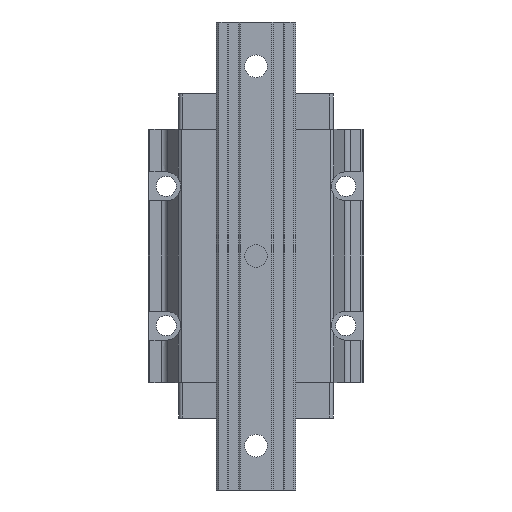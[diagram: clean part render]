
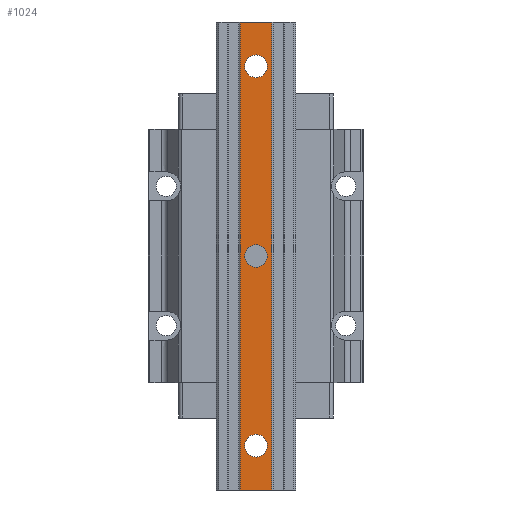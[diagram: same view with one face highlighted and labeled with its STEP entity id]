
A CAD part, front view. The second image highlights one B-rep face of the part: STEP entity #1024.
In plain terms, the highlighted planar face has unit normal (0, -1, 0).
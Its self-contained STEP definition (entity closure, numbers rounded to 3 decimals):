
#226 = ORIENTED_EDGE ( 'NONE', *, *, #3816, .F. ) ;
#241 = EDGE_CURVE ( 'NONE', #7084, #3475, #8092, .T. ) ;
#385 = CARTESIAN_POINT ( 'NONE',  ( 0., -53., 150. ) ) ;
#584 = VERTEX_POINT ( 'NONE', #2667 ) ;
#640 = EDGE_CURVE ( 'NONE', #584, #4975, #9044, .T. ) ;
#821 = CIRCLE ( 'NONE', #2776, 9. ) ;
#847 = DIRECTION ( 'NONE',  ( 0., 0., 1. ) ) ;
#978 = VECTOR ( 'NONE', #4752, 1000. ) ;
#1024 = ADVANCED_FACE ( 'NONE', ( #8942, #6776, #8246, #8199 ), #3282, .T. ) ;
#1065 = CIRCLE ( 'NONE', #3141, 9. ) ;
#1224 = EDGE_LOOP ( 'NONE', ( #4477, #2288 ) ) ;
#1339 = EDGE_LOOP ( 'NONE', ( #4423, #3932 ) ) ;
#1455 = EDGE_CURVE ( 'NONE', #3540, #2052, #3805, .T. ) ;
#1687 = AXIS2_PLACEMENT_3D ( 'NONE', #4756, #4661, #8329 ) ;
#1771 = ORIENTED_EDGE ( 'NONE', *, *, #3744, .T. ) ;
#1779 = EDGE_LOOP ( 'NONE', ( #5976, #1771 ) ) ;
#1784 = DIRECTION ( 'NONE',  ( 0., 1., 0. ) ) ;
#1937 = CARTESIAN_POINT ( 'NONE',  ( 0., -53., 141. ) ) ;
#1968 = DIRECTION ( 'NONE',  ( 0., 0., 1. ) ) ;
#2041 = LINE ( 'NONE', #7802, #978 ) ;
#2052 = VERTEX_POINT ( 'NONE', #1937 ) ;
#2146 = AXIS2_PLACEMENT_3D ( 'NONE', #8483, #6262, #1968 ) ;
#2288 = ORIENTED_EDGE ( 'NONE', *, *, #8921, .T. ) ;
#2563 = EDGE_LOOP ( 'NONE', ( #5948, #226, #8173, #2639 ) ) ;
#2583 = AXIS2_PLACEMENT_3D ( 'NONE', #4626, #8852, #3927 ) ;
#2618 = CARTESIAN_POINT ( 'NONE',  ( 0., -53., 159. ) ) ;
#2639 = ORIENTED_EDGE ( 'NONE', *, *, #8225, .T. ) ;
#2667 = CARTESIAN_POINT ( 'NONE',  ( 0., -53., -141. ) ) ;
#2673 = CARTESIAN_POINT ( 'NONE',  ( 0., -53., -150. ) ) ;
#2689 = CARTESIAN_POINT ( 'NONE',  ( 0., -53., -9. ) ) ;
#2776 = AXIS2_PLACEMENT_3D ( 'NONE', #7913, #5047, #847 ) ;
#2974 = DIRECTION ( 'NONE',  ( 0., 0., -1. ) ) ;
#3115 = LINE ( 'NONE', #3857, #3229 ) ;
#3141 = AXIS2_PLACEMENT_3D ( 'NONE', #385, #1784, #8298 ) ;
#3229 = VECTOR ( 'NONE', #2974, 1000. ) ;
#3282 = PLANE ( 'NONE',  #2583 ) ;
#3475 = VERTEX_POINT ( 'NONE', #4439 ) ;
#3540 = VERTEX_POINT ( 'NONE', #2618 ) ;
#3744 = EDGE_CURVE ( 'NONE', #4975, #584, #6233, .T. ) ;
#3763 = CARTESIAN_POINT ( 'NONE',  ( -12.5, -53., -185. ) ) ;
#3805 = CIRCLE ( 'NONE', #4998, 9. ) ;
#3816 = EDGE_CURVE ( 'NONE', #3945, #3475, #2041, .T. ) ;
#3857 = CARTESIAN_POINT ( 'NONE',  ( -12.5, -53., -185. ) ) ;
#3927 = DIRECTION ( 'NONE',  ( 0., 0., -1. ) ) ;
#3932 = ORIENTED_EDGE ( 'NONE', *, *, #5910, .T. ) ;
#3945 = VERTEX_POINT ( 'NONE', #4839 ) ;
#3947 = AXIS2_PLACEMENT_3D ( 'NONE', #2673, #6345, #4813 ) ;
#4307 = DIRECTION ( 'NONE',  ( 1., 0., 0. ) ) ;
#4423 = ORIENTED_EDGE ( 'NONE', *, *, #6029, .T. ) ;
#4439 = CARTESIAN_POINT ( 'NONE',  ( 12.5, -53., 185. ) ) ;
#4477 = ORIENTED_EDGE ( 'NONE', *, *, #1455, .T. ) ;
#4626 = CARTESIAN_POINT ( 'NONE',  ( -12.5, -53., -185. ) ) ;
#4661 = DIRECTION ( 'NONE',  ( 0., 1., 0. ) ) ;
#4675 = CIRCLE ( 'NONE', #2146, 9. ) ;
#4752 = DIRECTION ( 'NONE',  ( 1., 0., 0. ) ) ;
#4756 = CARTESIAN_POINT ( 'NONE',  ( 0., -53., -150. ) ) ;
#4813 = DIRECTION ( 'NONE',  ( 0., 0., 1. ) ) ;
#4839 = CARTESIAN_POINT ( 'NONE',  ( -12.5, -53., 185. ) ) ;
#4968 = LINE ( 'NONE', #5012, #6006 ) ;
#4975 = VERTEX_POINT ( 'NONE', #7699 ) ;
#4998 = AXIS2_PLACEMENT_3D ( 'NONE', #9190, #5468, #8372 ) ;
#5012 = CARTESIAN_POINT ( 'NONE',  ( 0., -53., -185. ) ) ;
#5047 = DIRECTION ( 'NONE',  ( 0., 1., 0. ) ) ;
#5468 = DIRECTION ( 'NONE',  ( 0., 1., 0. ) ) ;
#5658 = VERTEX_POINT ( 'NONE', #3763 ) ;
#5910 = EDGE_CURVE ( 'NONE', #7079, #7870, #4675, .T. ) ;
#5948 = ORIENTED_EDGE ( 'NONE', *, *, #241, .T. ) ;
#5976 = ORIENTED_EDGE ( 'NONE', *, *, #640, .T. ) ;
#6006 = VECTOR ( 'NONE', #4307, 1000. ) ;
#6029 = EDGE_CURVE ( 'NONE', #7870, #7079, #821, .T. ) ;
#6053 = VECTOR ( 'NONE', #7324, 1000. ) ;
#6233 = CIRCLE ( 'NONE', #3947, 9. ) ;
#6262 = DIRECTION ( 'NONE',  ( 0., 1., 0. ) ) ;
#6274 = CARTESIAN_POINT ( 'NONE',  ( 12.5, -53., -185. ) ) ;
#6345 = DIRECTION ( 'NONE',  ( 0., 1., 0. ) ) ;
#6620 = CARTESIAN_POINT ( 'NONE',  ( 12.5, -53., -185. ) ) ;
#6776 = FACE_BOUND ( 'NONE', #1224, .T. ) ;
#6869 = EDGE_CURVE ( 'NONE', #3945, #5658, #3115, .T. ) ;
#7079 = VERTEX_POINT ( 'NONE', #2689 ) ;
#7084 = VERTEX_POINT ( 'NONE', #6274 ) ;
#7324 = DIRECTION ( 'NONE',  ( 0., 0., 1. ) ) ;
#7699 = CARTESIAN_POINT ( 'NONE',  ( 0., -53., -159. ) ) ;
#7802 = CARTESIAN_POINT ( 'NONE',  ( 0., -53., 185. ) ) ;
#7848 = CARTESIAN_POINT ( 'NONE',  ( 0., -53., 9. ) ) ;
#7870 = VERTEX_POINT ( 'NONE', #7848 ) ;
#7913 = CARTESIAN_POINT ( 'NONE',  ( 0., -53., 0. ) ) ;
#8092 = LINE ( 'NONE', #6620, #6053 ) ;
#8173 = ORIENTED_EDGE ( 'NONE', *, *, #6869, .T. ) ;
#8199 = FACE_OUTER_BOUND ( 'NONE', #2563, .T. ) ;
#8225 = EDGE_CURVE ( 'NONE', #5658, #7084, #4968, .T. ) ;
#8246 = FACE_BOUND ( 'NONE', #1779, .T. ) ;
#8298 = DIRECTION ( 'NONE',  ( 0., 0., 1. ) ) ;
#8329 = DIRECTION ( 'NONE',  ( 0., 0., 1. ) ) ;
#8372 = DIRECTION ( 'NONE',  ( 0., 0., 1. ) ) ;
#8483 = CARTESIAN_POINT ( 'NONE',  ( 0., -53., 0. ) ) ;
#8852 = DIRECTION ( 'NONE',  ( 0., -1., 0. ) ) ;
#8921 = EDGE_CURVE ( 'NONE', #2052, #3540, #1065, .T. ) ;
#8942 = FACE_BOUND ( 'NONE', #1339, .T. ) ;
#9044 = CIRCLE ( 'NONE', #1687, 9. ) ;
#9190 = CARTESIAN_POINT ( 'NONE',  ( 0., -53., 150. ) ) ;
